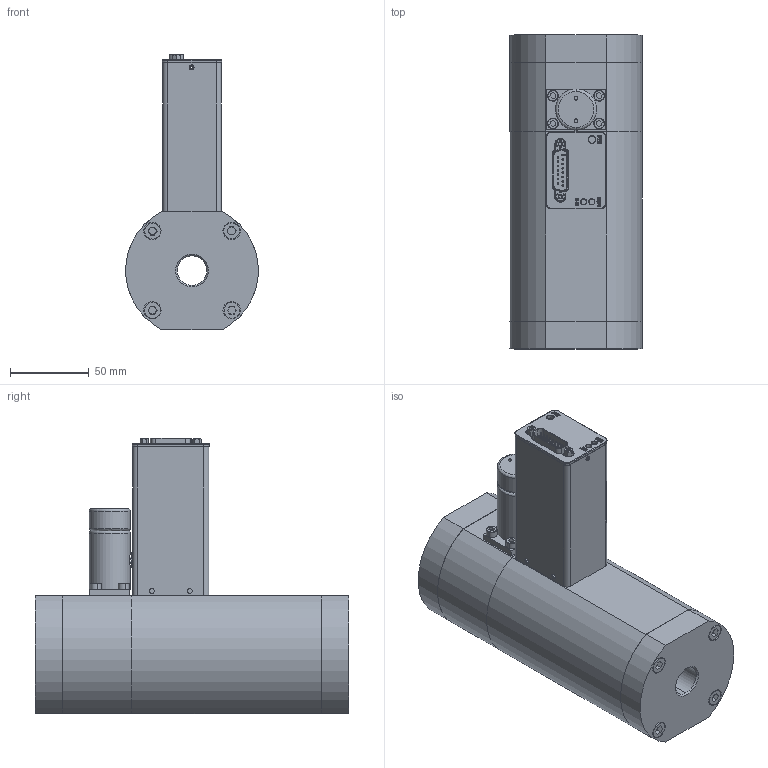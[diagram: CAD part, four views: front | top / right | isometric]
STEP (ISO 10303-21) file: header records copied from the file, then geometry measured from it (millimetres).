
FILE_DESCRIPTION (( 'STEP AP203' ), '1' );
FILE_NAME ('SLA5853-S-2N-2-C-REVB.STEP', '2018-10-29T18:55:33', ( 'mrutkowski' ), ( 'Hewlett-Packard Company' ), 'SwSTEP 2.0', 'SolidWorks 2017', '' );
FILE_SCHEMA (( 'CONFIG_CONTROL_DESIGN' ));
Length unit declared in the file: millimetre
Products named in the file (1): SLA5853-S-2N-2-C-REVB
Bounding box: 83.7 x 198.8 x 174.37 mm (x, y, z)
Surface area: 116327.4 mm2 (no closed solid volume)
Topology: 0 solids, 39 shells, 525 faces, 1798 edges, 1291 vertices
Faces by surface type: plane 208, cylinder 144, cone 112, bspline 61
Entity records: 22128 total; most frequent: CARTESIAN_POINT 6964, DIRECTION 3097, ORIENTED_EDGE 2789, EDGE_CURVE 1798, VERTEX_POINT 1291, AXIS2_PLACEMENT_3D 1112, VECTOR 873, LINE 873
